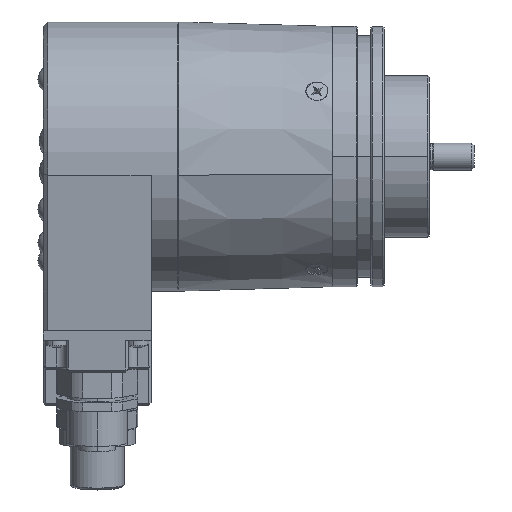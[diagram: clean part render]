
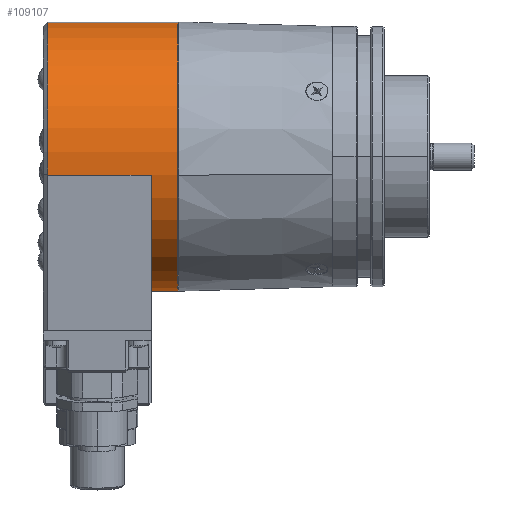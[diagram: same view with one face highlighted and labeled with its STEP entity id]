
A CAD part, top view. The second image highlights one B-rep face of the part: STEP entity #109107.
In plain terms, the highlighted cylindrical face has radius 30 mm (diameter 60 mm), a partial arc.
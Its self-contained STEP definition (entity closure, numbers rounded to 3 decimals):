
#84696 = DIRECTION ( 'NONE',  ( -1., 0., 0. ) ) ;
#84698 = VECTOR ( 'NONE', #84696, 1000. ) ;
#84700 = CARTESIAN_POINT ( 'NONE',  ( -26.95, -29.708, -4.175 ) ) ;
#84702 = LINE ( 'NONE', #84700, #84698 ) ;
#84884 = DIRECTION ( 'NONE',  ( -1., 0., 0. ) ) ;
#84885 = VECTOR ( 'NONE', #84884, 1000. ) ;
#84886 = CARTESIAN_POINT ( 'NONE',  ( -26.95, 29.708, 4.175 ) ) ;
#84887 = LINE ( 'NONE', #84886, #84885 ) ;
#85354 = CARTESIAN_POINT ( 'NONE',  ( -26.95, 29.708, 4.175 ) ) ;
#85362 = CARTESIAN_POINT ( 'NONE',  ( -26.95, -29.708, -4.175 ) ) ;
#85564 = CARTESIAN_POINT ( 'NONE',  ( -55.95, 29.708, 4.175 ) ) ;
#85774 = CARTESIAN_POINT ( 'NONE',  ( -32.95, -29.708, -4.175 ) ) ;
#95350 = DIRECTION ( 'NONE',  ( 0., -0.99, -0.139 ) ) ;
#95351 = DIRECTION ( 'NONE',  ( 1., 0., 0. ) ) ;
#95352 = CARTESIAN_POINT ( 'NONE',  ( -26.95, 0., 0. ) ) ;
#95353 = AXIS2_PLACEMENT_3D ( 'NONE', #95352, #95351, #95350 ) ;
#95355 = CIRCLE ( 'NONE', #95353, 30. ) ;
#95460 = DIRECTION ( 'NONE',  ( 0., 0.99, 0.139 ) ) ;
#95461 = DIRECTION ( 'NONE',  ( -1., 0., 0. ) ) ;
#95463 = AXIS2_PLACEMENT_3D ( 'NONE', #95467, #95461, #95460 ) ;
#95464 = CYLINDRICAL_SURFACE ( 'NONE', #95463, 30. ) ;
#95467 = CARTESIAN_POINT ( 'NONE',  ( -26.95, 0., 0. ) ) ;
#95509 = FACE_OUTER_BOUND ( 'NONE', #109108, .T. ) ;
#95704 = CARTESIAN_POINT ( 'NONE',  ( -55.95, -4.175, 29.708 ) ) ;
#95755 = DIRECTION ( 'NONE',  ( 0., -0.99, -0.139 ) ) ;
#95756 = DIRECTION ( 'NONE',  ( 1., 0., 0. ) ) ;
#95757 = CARTESIAN_POINT ( 'NONE',  ( -55.95, 0., 0. ) ) ;
#95759 = AXIS2_PLACEMENT_3D ( 'NONE', #95757, #95756, #95755 ) ;
#95760 = CIRCLE ( 'NONE', #95759, 30. ) ;
#96037 = DIRECTION ( 'NONE',  ( -1., 0., 0. ) ) ;
#96038 = VECTOR ( 'NONE', #96037, 1000. ) ;
#96040 = CARTESIAN_POINT ( 'NONE',  ( -32.95, -4.175, 29.708 ) ) ;
#96048 = LINE ( 'NONE', #96040, #96038 ) ;
#96069 = CARTESIAN_POINT ( 'NONE',  ( -32.95, -4.175, 29.708 ) ) ;
#96128 = DIRECTION ( 'NONE',  ( 0., 0.139, -0.99 ) ) ;
#96129 = DIRECTION ( 'NONE',  ( -1., 0., 0. ) ) ;
#96130 = CARTESIAN_POINT ( 'NONE',  ( -32.95, 0., 0. ) ) ;
#96131 = AXIS2_PLACEMENT_3D ( 'NONE', #96130, #96129, #96128 ) ;
#96133 = CIRCLE ( 'NONE', #96131, 30. ) ;
#107037 = EDGE_CURVE ( 'NONE', #107103, #107197, #84702, .T. ) ;
#107052 = EDGE_CURVE ( 'NONE', #107106, #107145, #84887, .T. ) ;
#107103 = VERTEX_POINT ( 'NONE', #85362 ) ;
#107106 = VERTEX_POINT ( 'NONE', #85354 ) ;
#107145 = VERTEX_POINT ( 'NONE', #85564 ) ;
#107197 = VERTEX_POINT ( 'NONE', #85774 ) ;
#109089 = EDGE_CURVE ( 'NONE', #107106, #107103, #95355, .T. ) ;
#109107 = ADVANCED_FACE ( 'NONE', ( #95509 ), #95464, .T. ) ;
#109108 = EDGE_LOOP ( 'NONE', ( #109109, #109173, #109144, #109156, #109140, #109244 ) ) ;
#109109 = ORIENTED_EDGE ( 'NONE', *, *, #107037, .F. ) ;
#109140 = ORIENTED_EDGE ( 'NONE', *, *, #109191, .F. ) ;
#109144 = ORIENTED_EDGE ( 'NONE', *, *, #107052, .T. ) ;
#109145 = VERTEX_POINT ( 'NONE', #95704 ) ;
#109156 = ORIENTED_EDGE ( 'NONE', *, *, #109157, .T. ) ;
#109157 = EDGE_CURVE ( 'NONE', #107145, #109145, #95760, .T. ) ;
#109173 = ORIENTED_EDGE ( 'NONE', *, *, #109089, .F. ) ;
#109191 = EDGE_CURVE ( 'NONE', #109237, #109145, #96048, .T. ) ;
#109197 = EDGE_CURVE ( 'NONE', #107197, #109237, #96133, .T. ) ;
#109237 = VERTEX_POINT ( 'NONE', #96069 ) ;
#109244 = ORIENTED_EDGE ( 'NONE', *, *, #109197, .F. ) ;
